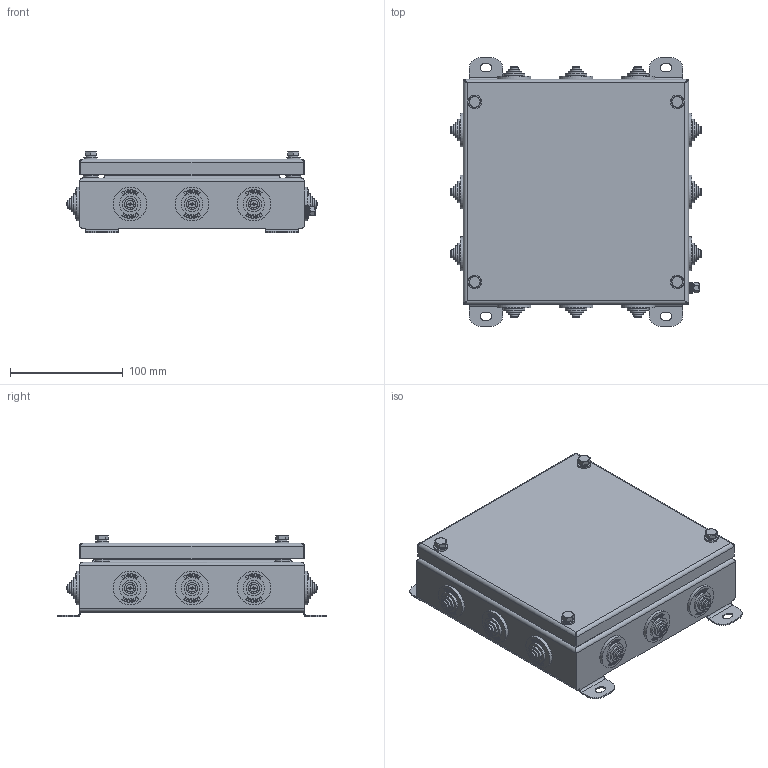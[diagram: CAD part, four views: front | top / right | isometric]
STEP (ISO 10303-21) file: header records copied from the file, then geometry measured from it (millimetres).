
FILE_DESCRIPTION(('STEP AP203'), '1');
FILE_NAME('Êîðîáêà 2020 IP55', '', ('UNSPECIFIED'), ('UNSPECIFIED'), 'ASCON STEP Converter 1.6', 'ASCON Math Kernel', '');
FILE_SCHEMA(('CONFIG_CONTROL_DESIGN'));
Length unit declared in the file: millimetre
Bounding box: 222.5 x 239 x 72.5 mm (x, y, z)
Volume: 2334976.2 mm3; surface area: 183988.5 mm2
Topology: 1 solids, 1 shells, 2395 faces, 6208 edges, 4104 vertices
Faces by surface type: plane 1786, extrusion 432, cylinder 155, cone 8, bspline 8, torus 6
Full cylindrical faces by diameter (mm): 3.7 x1, 5 x2, 5.5 x2, 6 x4, 6.5 x1, 6.6 x4, 7 x12, 8.5 x4, 10 x14, 12 x4, 13 x4, 14 x16, 19 x12, 30 x12
Entity records: 96641 total; most frequent: CARTESIAN_POINT 20762, ORIENTED_EDGE 12204, DIRECTION 9808, EDGE_CURVE 6102, VECTOR 5268, LINE 4836, VERTEX_POINT 4104, EDGE_LOOP 2816
